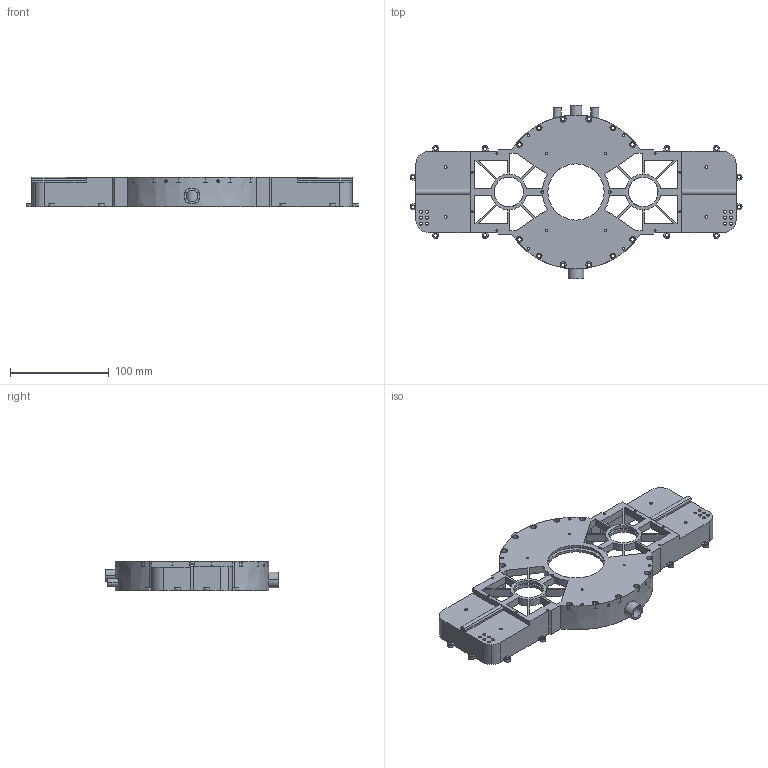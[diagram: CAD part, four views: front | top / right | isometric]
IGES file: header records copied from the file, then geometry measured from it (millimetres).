
Start section: IMSI TurboCAD v14.0
Global section: author: NULL; organization: NULL; date: 20240526.155312; units: millimetre
Bounding box: 336 x 175.6 x 29.5 mm (x, y, z)
Surface area: 127715.3 mm2 (no closed solid volume)
Topology: 0 solids, 0 shells, 673 faces, 4094 edges, 4084 vertices
Faces by surface type: revolution 423, extrusion 250
